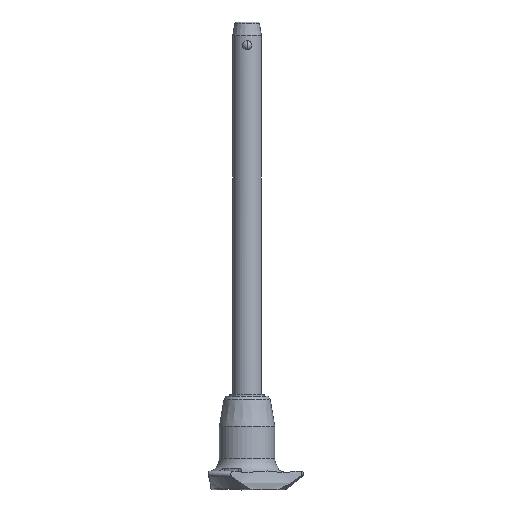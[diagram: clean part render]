
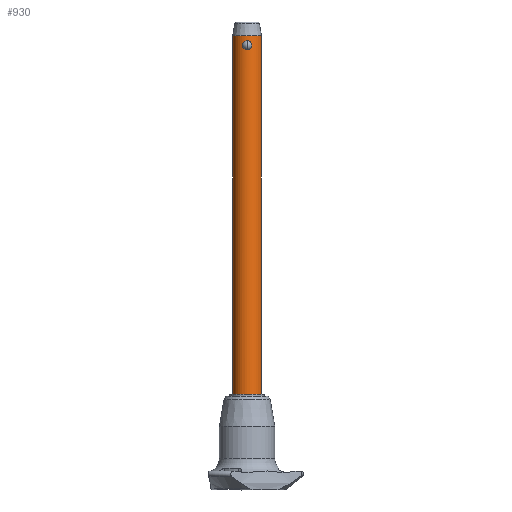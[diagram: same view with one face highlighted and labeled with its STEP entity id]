
A CAD part, front view. The second image highlights one B-rep face of the part: STEP entity #930.
In plain terms, the highlighted cylindrical face has radius 5 mm (diameter 10 mm), a partial arc.
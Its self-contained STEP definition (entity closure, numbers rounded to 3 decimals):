
#15 = CARTESIAN_POINT ( 'NONE',  ( -1.551, -4.753, 1.11 ) ) ;
#23 = CARTESIAN_POINT ( 'NONE',  ( 0.7, -4.952, 2.888 ) ) ;
#28 = CARTESIAN_POINT ( 'NONE',  ( -0.208, -5., 3.033 ) ) ;
#61 = CARTESIAN_POINT ( 'NONE',  ( 1.604, -4.736, 1.308 ) ) ;
#74 = CARTESIAN_POINT ( 'NONE',  ( 1.604, -4.736, 1.619 ) ) ;
#119 = VECTOR ( 'NONE', #187, 1000. ) ;
#143 = CARTESIAN_POINT ( 'NONE',  ( -0.966, -4.907, 0.296 ) ) ;
#173 = ORIENTED_EDGE ( 'NONE', *, *, #1428, .T. ) ;
#187 = DIRECTION ( 'NONE',  ( 0., 0., 1. ) ) ;
#219 = CARTESIAN_POINT ( 'NONE',  ( -1.604, -4.736, 1.416 ) ) ;
#220 = FACE_OUTER_BOUND ( 'NONE', #506, .T. ) ;
#231 = CARTESIAN_POINT ( 'NONE',  ( -0.412, -4.987, 2.997 ) ) ;
#239 = CARTESIAN_POINT ( 'NONE',  ( 1.594, -4.739, 1.721 ) ) ;
#259 = CARTESIAN_POINT ( 'NONE',  ( 0., 0., -120. ) ) ;
#287 = CARTESIAN_POINT ( 'NONE',  ( 1.519, -4.764, 2.021 ) ) ;
#306 = DIRECTION ( 'NONE',  ( 1., 0., 0. ) ) ;
#346 = CARTESIAN_POINT ( 'NONE',  ( 0., -5., 0. ) ) ;
#361 = ORIENTED_EDGE ( 'NONE', *, *, #1553, .F. ) ;
#362 = CARTESIAN_POINT ( 'NONE',  ( -1.047, -4.89, 0.357 ) ) ;
#364 = CARTESIAN_POINT ( 'NONE',  ( -5., 0., -120. ) ) ;
#447 = VERTEX_POINT ( 'NONE', #2605 ) ;
#471 = CARTESIAN_POINT ( 'NONE',  ( 1.196, -4.855, 0.493 ) ) ;
#506 = EDGE_LOOP ( 'NONE', ( #1192, #2535, #173, #1850 ) ) ;
#579 = DIRECTION ( 'NONE',  ( 0., 0., -1. ) ) ;
#601 = CARTESIAN_POINT ( 'NONE',  ( 5., 0., -120. ) ) ;
#604 = EDGE_LOOP ( 'NONE', ( #2409, #361 ) ) ;
#612 = AXIS2_PLACEMENT_3D ( 'NONE', #259, #1704, #1078 ) ;
#636 = CARTESIAN_POINT ( 'NONE',  ( -0.791, -4.938, 2.844 ) ) ;
#650 = CARTESIAN_POINT ( 'NONE',  ( -1.394, -4.802, 0.731 ) ) ;
#661 = CARTESIAN_POINT ( 'NONE',  ( 0.208, -5., 3.033 ) ) ;
#674 = CARTESIAN_POINT ( 'NONE',  ( 1.048, -4.889, 2.676 ) ) ;
#698 = CARTESIAN_POINT ( 'NONE',  ( 1.551, -4.753, 1.922 ) ) ;
#737 = CARTESIAN_POINT ( 'NONE',  ( -5., 0., 4.8 ) ) ;
#749 = EDGE_CURVE ( 'NONE', #447, #1676, #2058, .T. ) ;
#762 = CARTESIAN_POINT ( 'NONE',  ( -0.205, -5., 0. ) ) ;
#789 = VERTEX_POINT ( 'NONE', #1852 ) ;
#844 = CARTESIAN_POINT ( 'NONE',  ( -1.56, -4.751, 1.931 ) ) ;
#857 = CARTESIAN_POINT ( 'NONE',  ( -1.272, -4.838, 0.564 ) ) ;
#863 = CARTESIAN_POINT ( 'NONE',  ( 1.384, -4.805, 0.735 ) ) ;
#869 = CARTESIAN_POINT ( 'NONE',  ( -0.7, -4.952, 2.888 ) ) ;
#901 = CARTESIAN_POINT ( 'NONE',  ( 1.395, -4.802, 2.301 ) ) ;
#914 = CARTESIAN_POINT ( 'NONE',  ( 1.047, -4.89, 0.356 ) ) ;
#919 = VECTOR ( 'NONE', #1459, 1000. ) ;
#930 = ADVANCED_FACE ( 'NONE', ( #220, #1062 ), #1520, .T. ) ;
#1062 = FACE_BOUND ( 'NONE', #604, .T. ) ;
#1078 = DIRECTION ( 'NONE',  ( 1., 0., 0. ) ) ;
#1112 = CARTESIAN_POINT ( 'NONE',  ( 1.56, -4.751, 1.103 ) ) ;
#1192 = ORIENTED_EDGE ( 'NONE', *, *, #749, .F. ) ;
#1215 = EDGE_CURVE ( 'NONE', #789, #1676, #1943, .T. ) ;
#1251 = CARTESIAN_POINT ( 'NONE',  ( -1.047, -4.89, 2.676 ) ) ;
#1265 = CARTESIAN_POINT ( 'NONE',  ( -1.604, -4.736, 1.724 ) ) ;
#1268 = EDGE_CURVE ( 'NONE', #1429, #2681, #1713, .T. ) ;
#1291 = CARTESIAN_POINT ( 'NONE',  ( 0., -5., 0. ) ) ;
#1311 = EDGE_CURVE ( 'NONE', #2136, #447, #1579, .T. ) ;
#1337 = CARTESIAN_POINT ( 'NONE',  ( 0., -5., 0. ) ) ;
#1339 = CARTESIAN_POINT ( 'NONE',  ( 1.434, -4.79, 0.822 ) ) ;
#1382 = CARTESIAN_POINT ( 'NONE',  ( 0., 0., -120. ) ) ;
#1428 = EDGE_CURVE ( 'NONE', #2136, #789, #1485, .T. ) ;
#1429 = VERTEX_POINT ( 'NONE', #1442 ) ;
#1442 = CARTESIAN_POINT ( 'NONE',  ( 0., -5., 3.033 ) ) ;
#1459 = DIRECTION ( 'NONE',  ( 0., 0., 1. ) ) ;
#1478 = CARTESIAN_POINT ( 'NONE',  ( -1.383, -4.805, 2.299 ) ) ;
#1485 = LINE ( 'NONE', #601, #919 ) ;
#1520 = CYLINDRICAL_SURFACE ( 'NONE', #612, 5. ) ;
#1525 = CARTESIAN_POINT ( 'NONE',  ( 0.792, -4.938, 2.844 ) ) ;
#1538 = CARTESIAN_POINT ( 'NONE',  ( 0.966, -4.907, 2.738 ) ) ;
#1553 = EDGE_CURVE ( 'NONE', #2681, #1429, #2363, .T. ) ;
#1579 = CIRCLE ( 'NONE', #2123, 5. ) ;
#1623 = DIRECTION ( 'NONE',  ( 0., 0., -1. ) ) ;
#1676 = VERTEX_POINT ( 'NONE', #737 ) ;
#1703 = CARTESIAN_POINT ( 'NONE',  ( -1.519, -4.764, 1.013 ) ) ;
#1704 = DIRECTION ( 'NONE',  ( 0., 0., 1. ) ) ;
#1710 = CARTESIAN_POINT ( 'NONE',  ( 0.412, -4.987, 2.996 ) ) ;
#1713 = B_SPLINE_CURVE_WITH_KNOTS ( 'NONE', 3,
 ( #2141, #28, #231, #869, #636, #1716, #1251, #2106, #2574, #1478, #2342, #844, #1265, #219, #1914, #15, #1703, #650, #857, #362, #143, #2013, #1803, #2233, #762, #346 ),
 .UNSPECIFIED., .F., .F.,
 ( 4, 2, 2, 2, 2, 2, 2, 2, 2, 2, 2, 2, 4 ),
 ( 0., 0.001, 0.001, 0.001, 0.002, 0.002, 0.002, 0.003, 0.003, 0.004, 0.004, 0.004, 0.005 ),
 .UNSPECIFIED. ) ;
#1716 = CARTESIAN_POINT ( 'NONE',  ( -0.965, -4.907, 2.738 ) ) ;
#1721 = AXIS2_PLACEMENT_3D ( 'NONE', #2500, #579, #2528 ) ;
#1727 = CARTESIAN_POINT ( 'NONE',  ( 0.412, -4.987, 0.037 ) ) ;
#1803 = CARTESIAN_POINT ( 'NONE',  ( -0.699, -4.952, 0.145 ) ) ;
#1850 = ORIENTED_EDGE ( 'NONE', *, *, #1215, .T. ) ;
#1852 = CARTESIAN_POINT ( 'NONE',  ( 5., 0., 4.8 ) ) ;
#1914 = CARTESIAN_POINT ( 'NONE',  ( -1.594, -4.739, 1.312 ) ) ;
#1936 = CARTESIAN_POINT ( 'NONE',  ( 0., -5., 3.033 ) ) ;
#1943 = CIRCLE ( 'NONE', #1721, 5. ) ;
#1959 = CARTESIAN_POINT ( 'NONE',  ( 0.699, -4.952, 0.144 ) ) ;
#2013 = CARTESIAN_POINT ( 'NONE',  ( -0.792, -4.938, 0.19 ) ) ;
#2058 = LINE ( 'NONE', #364, #119 ) ;
#2106 = CARTESIAN_POINT ( 'NONE',  ( -1.197, -4.855, 2.539 ) ) ;
#2123 = AXIS2_PLACEMENT_3D ( 'NONE', #1382, #1623, #306 ) ;
#2136 = VERTEX_POINT ( 'NONE', #2331 ) ;
#2141 = CARTESIAN_POINT ( 'NONE',  ( 0., -5., 3.033 ) ) ;
#2165 = CARTESIAN_POINT ( 'NONE',  ( 1.272, -4.838, 2.47 ) ) ;
#2181 = CARTESIAN_POINT ( 'NONE',  ( 0.792, -4.938, 0.19 ) ) ;
#2233 = CARTESIAN_POINT ( 'NONE',  ( -0.412, -4.987, 0.037 ) ) ;
#2331 = CARTESIAN_POINT ( 'NONE',  ( 5., 0., -120. ) ) ;
#2342 = CARTESIAN_POINT ( 'NONE',  ( -1.435, -4.79, 2.209 ) ) ;
#2363 = B_SPLINE_CURVE_WITH_KNOTS ( 'NONE', 3,
 ( #1291, #2396, #1727, #1959, #2181, #2604, #914, #471, #2594, #863, #1339, #1112, #61, #74, #239, #698, #287, #901, #2165, #674, #1538, #1525, #23, #1710, #661, #1936 ),
 .UNSPECIFIED., .F., .F.,
 ( 4, 2, 2, 2, 2, 2, 2, 2, 2, 2, 2, 2, 4 ),
 ( 0.005, 0.006, 0.006, 0.006, 0.006, 0.007, 0.007, 0.008, 0.008, 0.009, 0.009, 0.009, 0.01 ),
 .UNSPECIFIED. ) ;
#2396 = CARTESIAN_POINT ( 'NONE',  ( 0.205, -5., 0. ) ) ;
#2409 = ORIENTED_EDGE ( 'NONE', *, *, #1268, .F. ) ;
#2500 = CARTESIAN_POINT ( 'NONE',  ( 0., 0., 4.8 ) ) ;
#2528 = DIRECTION ( 'NONE',  ( 1., 0., 0. ) ) ;
#2535 = ORIENTED_EDGE ( 'NONE', *, *, #1311, .F. ) ;
#2574 = CARTESIAN_POINT ( 'NONE',  ( -1.264, -4.838, 2.464 ) ) ;
#2594 = CARTESIAN_POINT ( 'NONE',  ( 1.265, -4.838, 0.57 ) ) ;
#2604 = CARTESIAN_POINT ( 'NONE',  ( 0.966, -4.907, 0.296 ) ) ;
#2605 = CARTESIAN_POINT ( 'NONE',  ( -5., 0., -120. ) ) ;
#2681 = VERTEX_POINT ( 'NONE', #1337 ) ;
